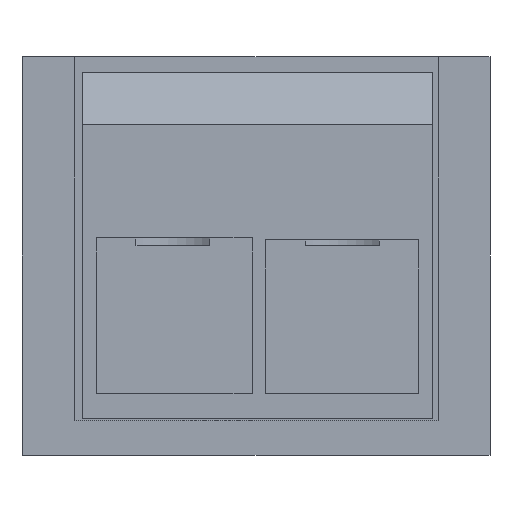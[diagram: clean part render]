
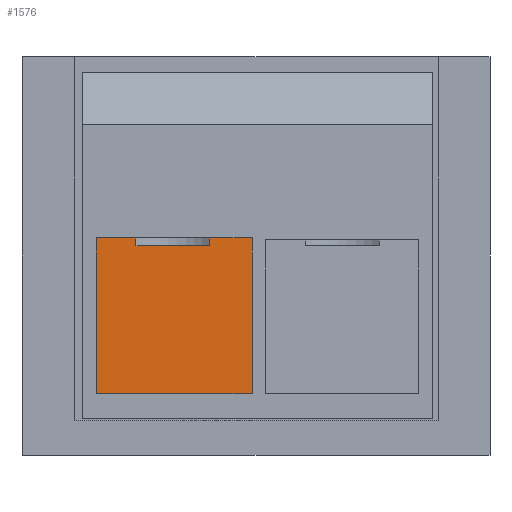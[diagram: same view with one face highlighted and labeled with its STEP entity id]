
A CAD part, left-side view. The second image highlights one B-rep face of the part: STEP entity #1576.
In plain terms, the highlighted planar face has unit normal (-1, 0, 0) as drawn and (1, 0, 0) by its records, which use the part's own axes.
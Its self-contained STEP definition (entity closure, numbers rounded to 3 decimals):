
#455 = CYLINDRICAL_SURFACE('',#456,1.64);
#456 = AXIS2_PLACEMENT_3D('',#457,#458,#459);
#457 = CARTESIAN_POINT('',(0.,0.,10.));
#458 = DIRECTION('',(0.,0.,1.));
#459 = DIRECTION('',(1.,0.,0.));
#685 = PLANE('',#686);
#686 = AXIS2_PLACEMENT_3D('',#687,#688,#689);
#687 = CARTESIAN_POINT('',(3.75,-2.203,0.731));
#688 = DIRECTION('',(0.,1.,0.));
#689 = DIRECTION('',(0.,0.,1.));
#713 = PLANE('',#714);
#714 = AXIS2_PLACEMENT_3D('',#715,#716,#717);
#715 = CARTESIAN_POINT('',(3.75,-2.203,5.221));
#716 = DIRECTION('',(0.,0.,-1.));
#717 = DIRECTION('',(0.,1.,0.));
#741 = PLANE('',#742);
#742 = AXIS2_PLACEMENT_3D('',#743,#744,#745);
#743 = CARTESIAN_POINT('',(3.75,2.287,5.221));
#744 = DIRECTION('',(0.,-1.,0.));
#745 = DIRECTION('',(0.,0.,-1.));
#767 = PLANE('',#768);
#768 = AXIS2_PLACEMENT_3D('',#769,#770,#771);
#769 = CARTESIAN_POINT('',(3.75,2.287,0.731));
#770 = DIRECTION('',(0.,0.,1.));
#771 = DIRECTION('',(0.,-1.,0.));
#843 = VERTEX_POINT('',#844);
#844 = CARTESIAN_POINT('',(-1.25,1.062,5.221));
#870 = EDGE_CURVE('',#871,#843,#873,.T.);
#871 = VERTEX_POINT('',#872);
#872 = CARTESIAN_POINT('',(-1.25,1.062,5.));
#873 = SURFACE_CURVE('',#874,(#878,#885),.PCURVE_S1.);
#874 = LINE('',#875,#876);
#875 = CARTESIAN_POINT('',(-1.25,1.062,10.));
#876 = VECTOR('',#877,1.);
#877 = DIRECTION('',(0.,0.,1.));
#878 = PCURVE('',#455,#879);
#879 = DEFINITIONAL_REPRESENTATION('',(#880),#884);
#880 = LINE('',#881,#882);
#881 = CARTESIAN_POINT('',(2.437,0.));
#882 = VECTOR('',#883,1.);
#883 = DIRECTION('',(0.,1.));
#884 = ( GEOMETRIC_REPRESENTATION_CONTEXT(2) 
PARAMETRIC_REPRESENTATION_CONTEXT() REPRESENTATION_CONTEXT('2D SPACE',''
  ) );
#885 = PCURVE('',#886,#891);
#886 = PLANE('',#887);
#887 = AXIS2_PLACEMENT_3D('',#888,#889,#890);
#888 = CARTESIAN_POINT('',(-1.25,0.042,2.976));
#889 = DIRECTION('',(-1.,-0.,-0.));
#890 = DIRECTION('',(0.,0.,-1.));
#891 = DEFINITIONAL_REPRESENTATION('',(#892),#896);
#892 = LINE('',#893,#894);
#893 = CARTESIAN_POINT('',(-7.024,-1.02));
#894 = VECTOR('',#895,1.);
#895 = DIRECTION('',(-1.,0.));
#896 = ( GEOMETRIC_REPRESENTATION_CONTEXT(2) 
PARAMETRIC_REPRESENTATION_CONTEXT() REPRESENTATION_CONTEXT('2D SPACE',''
  ) );
#899 = VERTEX_POINT('',#900);
#900 = CARTESIAN_POINT('',(-1.25,-1.062,5.));
#915 = PLANE('',#916);
#916 = AXIS2_PLACEMENT_3D('',#917,#918,#919);
#917 = CARTESIAN_POINT('',(0.,0.,5.));
#918 = DIRECTION('',(0.,0.,1.));
#919 = DIRECTION('',(1.,0.,0.));
#927 = EDGE_CURVE('',#899,#928,#930,.T.);
#928 = VERTEX_POINT('',#929);
#929 = CARTESIAN_POINT('',(-1.25,-1.062,5.221));
#930 = SURFACE_CURVE('',#931,(#935,#942),.PCURVE_S1.);
#931 = LINE('',#932,#933);
#932 = CARTESIAN_POINT('',(-1.25,-1.062,10.));
#933 = VECTOR('',#934,1.);
#934 = DIRECTION('',(0.,0.,1.));
#935 = PCURVE('',#455,#936);
#936 = DEFINITIONAL_REPRESENTATION('',(#937),#941);
#937 = LINE('',#938,#939);
#938 = CARTESIAN_POINT('',(3.846,0.));
#939 = VECTOR('',#940,1.);
#940 = DIRECTION('',(0.,1.));
#941 = ( GEOMETRIC_REPRESENTATION_CONTEXT(2) 
PARAMETRIC_REPRESENTATION_CONTEXT() REPRESENTATION_CONTEXT('2D SPACE',''
  ) );
#942 = PCURVE('',#886,#943);
#943 = DEFINITIONAL_REPRESENTATION('',(#944),#948);
#944 = LINE('',#945,#946);
#945 = CARTESIAN_POINT('',(-7.024,1.104));
#946 = VECTOR('',#947,1.);
#947 = DIRECTION('',(-1.,0.));
#948 = ( GEOMETRIC_REPRESENTATION_CONTEXT(2) 
PARAMETRIC_REPRESENTATION_CONTEXT() REPRESENTATION_CONTEXT('2D SPACE',''
  ) );
#1362 = VERTEX_POINT('',#1363);
#1363 = CARTESIAN_POINT('',(-1.25,-2.203,0.731));
#1384 = EDGE_CURVE('',#1362,#1385,#1387,.T.);
#1385 = VERTEX_POINT('',#1386);
#1386 = CARTESIAN_POINT('',(-1.25,-2.203,5.221));
#1387 = SURFACE_CURVE('',#1388,(#1392,#1399),.PCURVE_S1.);
#1388 = LINE('',#1389,#1390);
#1389 = CARTESIAN_POINT('',(-1.25,-2.203,0.731));
#1390 = VECTOR('',#1391,1.);
#1391 = DIRECTION('',(0.,0.,1.));
#1392 = PCURVE('',#685,#1393);
#1393 = DEFINITIONAL_REPRESENTATION('',(#1394),#1398);
#1394 = LINE('',#1395,#1396);
#1395 = CARTESIAN_POINT('',(0.,-5.));
#1396 = VECTOR('',#1397,1.);
#1397 = DIRECTION('',(1.,0.));
#1398 = ( GEOMETRIC_REPRESENTATION_CONTEXT(2) 
PARAMETRIC_REPRESENTATION_CONTEXT() REPRESENTATION_CONTEXT('2D SPACE',''
  ) );
#1399 = PCURVE('',#886,#1400);
#1400 = DEFINITIONAL_REPRESENTATION('',(#1401),#1405);
#1401 = LINE('',#1402,#1403);
#1402 = CARTESIAN_POINT('',(2.245,2.245));
#1403 = VECTOR('',#1404,1.);
#1404 = DIRECTION('',(-1.,0.));
#1405 = ( GEOMETRIC_REPRESENTATION_CONTEXT(2) 
PARAMETRIC_REPRESENTATION_CONTEXT() REPRESENTATION_CONTEXT('2D SPACE',''
  ) );
#1433 = VERTEX_POINT('',#1434);
#1434 = CARTESIAN_POINT('',(-1.25,2.287,0.731));
#1455 = EDGE_CURVE('',#1433,#1362,#1456,.T.);
#1456 = SURFACE_CURVE('',#1457,(#1461,#1468),.PCURVE_S1.);
#1457 = LINE('',#1458,#1459);
#1458 = CARTESIAN_POINT('',(-1.25,2.287,0.731));
#1459 = VECTOR('',#1460,1.);
#1460 = DIRECTION('',(0.,-1.,0.));
#1461 = PCURVE('',#767,#1462);
#1462 = DEFINITIONAL_REPRESENTATION('',(#1463),#1467);
#1463 = LINE('',#1464,#1465);
#1464 = CARTESIAN_POINT('',(0.,-5.));
#1465 = VECTOR('',#1466,1.);
#1466 = DIRECTION('',(1.,0.));
#1467 = ( GEOMETRIC_REPRESENTATION_CONTEXT(2) 
PARAMETRIC_REPRESENTATION_CONTEXT() REPRESENTATION_CONTEXT('2D SPACE',''
  ) );
#1468 = PCURVE('',#886,#1469);
#1469 = DEFINITIONAL_REPRESENTATION('',(#1470),#1474);
#1470 = LINE('',#1471,#1472);
#1471 = CARTESIAN_POINT('',(2.245,-2.245));
#1472 = VECTOR('',#1473,1.);
#1473 = DIRECTION('',(0.,1.));
#1474 = ( GEOMETRIC_REPRESENTATION_CONTEXT(2) 
PARAMETRIC_REPRESENTATION_CONTEXT() REPRESENTATION_CONTEXT('2D SPACE',''
  ) );
#1483 = EDGE_CURVE('',#1385,#928,#1484,.T.);
#1484 = SURFACE_CURVE('',#1485,(#1489,#1496),.PCURVE_S1.);
#1485 = LINE('',#1486,#1487);
#1486 = CARTESIAN_POINT('',(-1.25,-2.203,5.221));
#1487 = VECTOR('',#1488,1.);
#1488 = DIRECTION('',(0.,1.,0.));
#1489 = PCURVE('',#713,#1490);
#1490 = DEFINITIONAL_REPRESENTATION('',(#1491),#1495);
#1491 = LINE('',#1492,#1493);
#1492 = CARTESIAN_POINT('',(0.,-5.));
#1493 = VECTOR('',#1494,1.);
#1494 = DIRECTION('',(1.,0.));
#1495 = ( GEOMETRIC_REPRESENTATION_CONTEXT(2) 
PARAMETRIC_REPRESENTATION_CONTEXT() REPRESENTATION_CONTEXT('2D SPACE',''
  ) );
#1496 = PCURVE('',#886,#1497);
#1497 = DEFINITIONAL_REPRESENTATION('',(#1498),#1502);
#1498 = LINE('',#1499,#1500);
#1499 = CARTESIAN_POINT('',(-2.245,2.245));
#1500 = VECTOR('',#1501,1.);
#1501 = DIRECTION('',(0.,-1.));
#1502 = ( GEOMETRIC_REPRESENTATION_CONTEXT(2) 
PARAMETRIC_REPRESENTATION_CONTEXT() REPRESENTATION_CONTEXT('2D SPACE',''
  ) );
#1506 = EDGE_CURVE('',#843,#1507,#1509,.T.);
#1507 = VERTEX_POINT('',#1508);
#1508 = CARTESIAN_POINT('',(-1.25,2.287,5.221));
#1509 = SURFACE_CURVE('',#1510,(#1514,#1521),.PCURVE_S1.);
#1510 = LINE('',#1511,#1512);
#1511 = CARTESIAN_POINT('',(-1.25,-2.203,5.221));
#1512 = VECTOR('',#1513,1.);
#1513 = DIRECTION('',(0.,1.,0.));
#1514 = PCURVE('',#713,#1515);
#1515 = DEFINITIONAL_REPRESENTATION('',(#1516),#1520);
#1516 = LINE('',#1517,#1518);
#1517 = CARTESIAN_POINT('',(0.,-5.));
#1518 = VECTOR('',#1519,1.);
#1519 = DIRECTION('',(1.,0.));
#1520 = ( GEOMETRIC_REPRESENTATION_CONTEXT(2) 
PARAMETRIC_REPRESENTATION_CONTEXT() REPRESENTATION_CONTEXT('2D SPACE',''
  ) );
#1521 = PCURVE('',#886,#1522);
#1522 = DEFINITIONAL_REPRESENTATION('',(#1523),#1527);
#1523 = LINE('',#1524,#1525);
#1524 = CARTESIAN_POINT('',(-2.245,2.245));
#1525 = VECTOR('',#1526,1.);
#1526 = DIRECTION('',(0.,-1.));
#1527 = ( GEOMETRIC_REPRESENTATION_CONTEXT(2) 
PARAMETRIC_REPRESENTATION_CONTEXT() REPRESENTATION_CONTEXT('2D SPACE',''
  ) );
#1554 = EDGE_CURVE('',#1507,#1433,#1555,.T.);
#1555 = SURFACE_CURVE('',#1556,(#1560,#1567),.PCURVE_S1.);
#1556 = LINE('',#1557,#1558);
#1557 = CARTESIAN_POINT('',(-1.25,2.287,5.221));
#1558 = VECTOR('',#1559,1.);
#1559 = DIRECTION('',(0.,0.,-1.));
#1560 = PCURVE('',#741,#1561);
#1561 = DEFINITIONAL_REPRESENTATION('',(#1562),#1566);
#1562 = LINE('',#1563,#1564);
#1563 = CARTESIAN_POINT('',(0.,-5.));
#1564 = VECTOR('',#1565,1.);
#1565 = DIRECTION('',(1.,0.));
#1566 = ( GEOMETRIC_REPRESENTATION_CONTEXT(2) 
PARAMETRIC_REPRESENTATION_CONTEXT() REPRESENTATION_CONTEXT('2D SPACE',''
  ) );
#1567 = PCURVE('',#886,#1568);
#1568 = DEFINITIONAL_REPRESENTATION('',(#1569),#1573);
#1569 = LINE('',#1570,#1571);
#1570 = CARTESIAN_POINT('',(-2.245,-2.245));
#1571 = VECTOR('',#1572,1.);
#1572 = DIRECTION('',(1.,0.));
#1573 = ( GEOMETRIC_REPRESENTATION_CONTEXT(2) 
PARAMETRIC_REPRESENTATION_CONTEXT() REPRESENTATION_CONTEXT('2D SPACE',''
  ) );
#1576 = ADVANCED_FACE('',(#1577),#886,.F.);
#1577 = FACE_BOUND('',#1578,.F.);
#1578 = EDGE_LOOP('',(#1579,#1580,#1581,#1582,#1603,#1604,#1605,#1606));
#1579 = ORIENTED_EDGE('',*,*,#1384,.T.);
#1580 = ORIENTED_EDGE('',*,*,#1483,.T.);
#1581 = ORIENTED_EDGE('',*,*,#927,.F.);
#1582 = ORIENTED_EDGE('',*,*,#1583,.T.);
#1583 = EDGE_CURVE('',#899,#871,#1584,.T.);
#1584 = SURFACE_CURVE('',#1585,(#1589,#1596),.PCURVE_S1.);
#1585 = LINE('',#1586,#1587);
#1586 = CARTESIAN_POINT('',(-1.25,0.021,5.));
#1587 = VECTOR('',#1588,1.);
#1588 = DIRECTION('',(0.,1.,0.));
#1589 = PCURVE('',#886,#1590);
#1590 = DEFINITIONAL_REPRESENTATION('',(#1591),#1595);
#1591 = LINE('',#1592,#1593);
#1592 = CARTESIAN_POINT('',(-2.024,0.021));
#1593 = VECTOR('',#1594,1.);
#1594 = DIRECTION('',(0.,-1.));
#1595 = ( GEOMETRIC_REPRESENTATION_CONTEXT(2) 
PARAMETRIC_REPRESENTATION_CONTEXT() REPRESENTATION_CONTEXT('2D SPACE',''
  ) );
#1596 = PCURVE('',#915,#1597);
#1597 = DEFINITIONAL_REPRESENTATION('',(#1598),#1602);
#1598 = LINE('',#1599,#1600);
#1599 = CARTESIAN_POINT('',(-1.25,0.021));
#1600 = VECTOR('',#1601,1.);
#1601 = DIRECTION('',(0.,1.));
#1602 = ( GEOMETRIC_REPRESENTATION_CONTEXT(2) 
PARAMETRIC_REPRESENTATION_CONTEXT() REPRESENTATION_CONTEXT('2D SPACE',''
  ) );
#1603 = ORIENTED_EDGE('',*,*,#870,.T.);
#1604 = ORIENTED_EDGE('',*,*,#1506,.T.);
#1605 = ORIENTED_EDGE('',*,*,#1554,.T.);
#1606 = ORIENTED_EDGE('',*,*,#1455,.T.);
